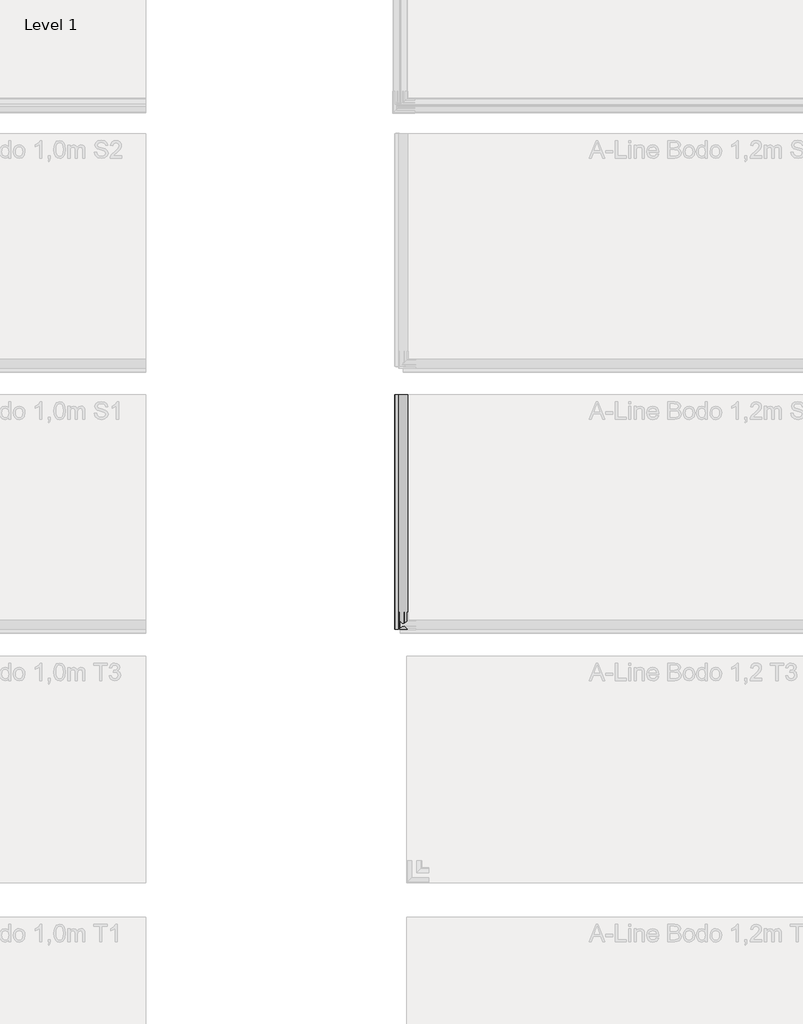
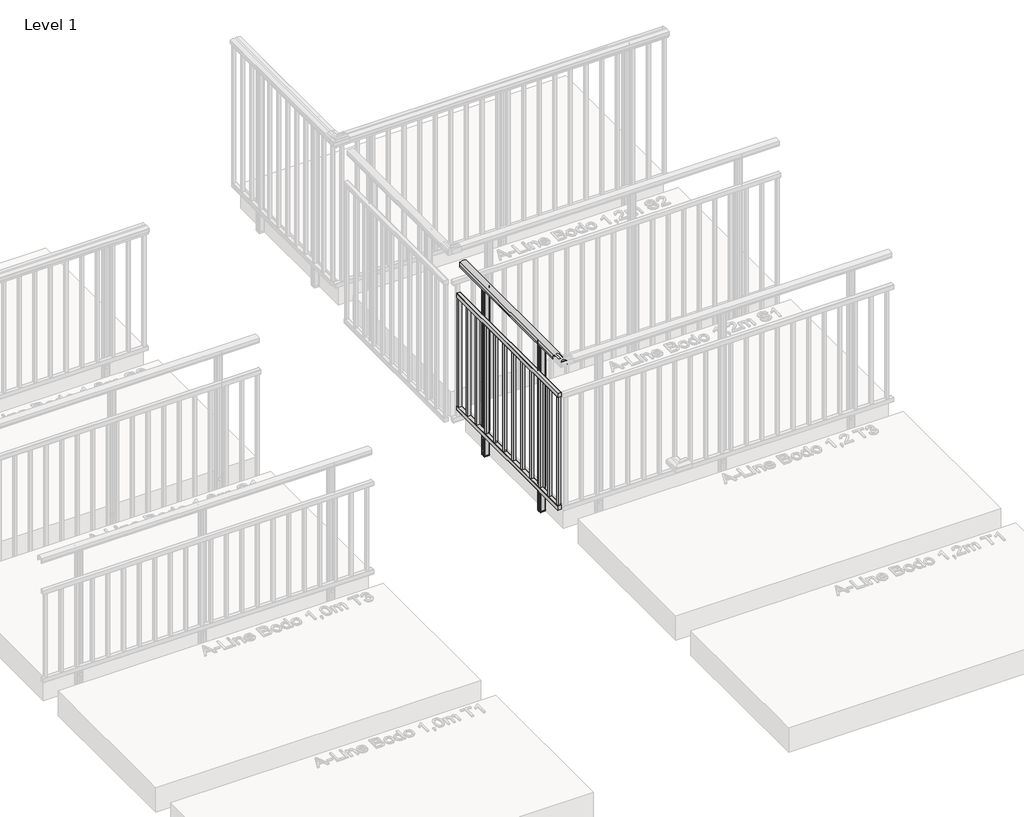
# One storey, part 6 of 66: 1 railing.
"""IFC4 building model written with IfcOpenShell, lengths in millimetres."""

from ifc_helpers import new_model, si_unit, point, frame, frame_2d, origin, place, context, project, spatial, polyline, circle_curve, trimmed, segment, composite_curve, outline, extrude, element, save

model = new_model("IFC4")

# Units and contexts
model_context = context("Model", 3, world=origin())
ifc_project = project(units=[si_unit("LENGTHUNIT", "METRE", prefix="MILLI")], contexts=[model_context])

# Site, building, storey
site = spatial("IfcSite", under=ifc_project)
building = spatial("IfcBuilding", under=site)
storey = spatial("IfcBuildingStorey", under=building, Name="Level 1", Elevation=0.0)

# Railing
placement = place(None, origin())
element("IfcRailing", 1, ObjectType="A-Line Bodo 1,2m S1", at=placement, inside=storey, context=model_context, shape_type="SweptSolid", body=[
    extrude(outline(composite_curve([segment(trimmed(circle_curve(frame_2d((1142.6785502, 8483.339356)), 57.3235687), [point((1194.1390059, 8508.5943162))], [point((1194.1342258, 8458.074658))], False, "CARTESIAN"), True, "CONTINUOUS"), segment(polyline([(1194.1342258, 8458.074658), (1167.0235023, 8458.074658), (1166.4415706, 8458.6565897), (1165.8194895, 8458.0345086), (1157.2498847, 8458.0345086), (1157.2498847, 8459.8394615), (1180.4998829, 8459.8394615), (1180.4998829, 8506.8345077), (1157.2498847, 8506.8345077), (1157.2498847, 8508.5943162), (1165.9694895, 8508.5943162), (1166.5842725, 8507.9795332), (1167.1990555, 8508.5943162), (1194.1390059, 8508.5943162)]), True, "CONTINUOUS")], self_intersect=False)), frame((0.0, -17614.7113559, 0.0), z_axis=(0.0, 1.0, 0.0), x_axis=(0.0, 0.0, 1.0)), (0.0, 0.0, 1.0), 1345.0),
    extrude(outline(composite_curve([segment(polyline([(949.0, 8434.5047322), (916.8, 8434.5047322)]), True, "CONTINUOUS"), segment(trimmed(circle_curve(frame_2d((916.8, 8435.5047322)), 1.0), [point((916.8, 8434.5047322))], [point((915.8, 8435.5047322))], False, "CARTESIAN"), True, "CONTINUOUS"), segment(polyline([(915.8, 8435.5047322), (915.8, 8462.6047322)]), True, "CONTINUOUS"), segment(trimmed(circle_curve(frame_2d((916.8, 8462.6047322)), 1.0), [point((915.8, 8462.6047322))], [point((916.8, 8463.6047322))], False, "CARTESIAN"), True, "CONTINUOUS"), segment(polyline([(916.8, 8463.6047322), (949.0, 8463.6047322)]), True, "CONTINUOUS"), segment(trimmed(circle_curve(frame_2d((949.0, 8462.6047322)), 1.0), [point((949.0, 8463.6047322))], [point((950.0, 8462.6047322))], False, "CARTESIAN"), True, "CONTINUOUS"), segment(polyline([(950.0, 8462.6047322), (950.0, 8435.5047322)]), True, "CONTINUOUS"), segment(trimmed(circle_curve(frame_2d((949.0, 8435.5047322)), 1.0), [point((950.0, 8435.5047322))], [point((949.0, 8434.5047322))], False, "CARTESIAN"), True, "CONTINUOUS")], self_intersect=False)), frame((0.0, -17614.7113559, 0.0), z_axis=(0.0, 1.0, 0.0), x_axis=(0.0, 0.0, 1.0)), (0.0, 0.0, 1.0), 1345.0),
    extrude(outline(composite_curve([segment(trimmed(circle_curve(frame_2d((33.2, 8435.5047322)), 1.0), [point((34.2, 8435.5047322))], [point((33.2, 8434.5047322))], False, "CARTESIAN"), True, "CONTINUOUS"), segment(polyline([(33.2, 8434.5047322), (1.0, 8434.5047322)]), True, "CONTINUOUS"), segment(trimmed(circle_curve(frame_2d((1.0, 8435.5047322)), 1.0), [point((1.0, 8434.5047322))], [point((0.0, 8435.5047322))], False, "CARTESIAN"), True, "CONTINUOUS"), segment(polyline([(0.0, 8435.5047322), (0.0, 8462.6047322)]), True, "CONTINUOUS"), segment(trimmed(circle_curve(frame_2d((1.0, 8462.6047322)), 1.0), [point((0.0, 8462.6047322))], [point((1.0, 8463.6047322))], False, "CARTESIAN"), True, "CONTINUOUS"), segment(polyline([(1.0, 8463.6047322), (33.2, 8463.6047322)]), True, "CONTINUOUS"), segment(trimmed(circle_curve(frame_2d((33.2, 8462.6047322)), 1.0), [point((33.2, 8463.6047322))], [point((34.2, 8462.6047322))], False, "CARTESIAN"), True, "CONTINUOUS"), segment(polyline([(34.2, 8462.6047322), (34.2, 8435.5047322)]), True, "CONTINUOUS")], self_intersect=False)), frame((0.0, -17614.7113559, 0.0), z_axis=(0.0, 1.0, 0.0), x_axis=(0.0, 0.0, 1.0)), (0.0, 0.0, 1.0), 1345.0),
    extrude(outline(polyline([(8439.0547322, -17592.2113559), (8459.0547322, -17592.2113559), (8459.0547322, -17612.2113559), (8439.0547322, -17612.2113559), (8439.0547322, -17592.2113559)]), holes=[polyline([(8441.0547322, -17594.2113559), (8441.0547322, -17610.2113559), (8457.0547322, -17610.2113559), (8457.0547322, -17594.2113559), (8441.0547322, -17594.2113559)])]), frame((0.0, 0.0, 34.0), z_axis=(0.0, 0.0, 1.0), x_axis=(1.0, 0.0, 0.0)), (0.0, 0.0, 1.0), 882.0),
    extrude(outline(polyline([(8439.0547322, -17472.2113559), (8459.0547322, -17472.2113559), (8459.0547322, -17492.2113559), (8439.0547322, -17492.2113559), (8439.0547322, -17472.2113559)]), holes=[polyline([(8441.0547322, -17474.2113559), (8441.0547322, -17490.2113559), (8457.0547322, -17490.2113559), (8457.0547322, -17474.2113559), (8441.0547322, -17474.2113559)])]), frame((0.0, 0.0, 34.0), z_axis=(0.0, 0.0, 1.0), x_axis=(1.0, 0.0, 0.0)), (0.0, 0.0, 1.0), 882.0),
    extrude(outline(polyline([(8439.0547322, -17352.2113559), (8459.0547322, -17352.2113559), (8459.0547322, -17372.2113559), (8439.0547322, -17372.2113559), (8439.0547322, -17352.2113559)]), holes=[polyline([(8441.0547322, -17354.2113559), (8441.0547322, -17370.2113559), (8457.0547322, -17370.2113559), (8457.0547322, -17354.2113559), (8441.0547322, -17354.2113559)])]), frame((0.0, 0.0, 34.0), z_axis=(0.0, 0.0, 1.0), x_axis=(1.0, 0.0, 0.0)), (0.0, 0.0, 1.0), 882.0),
    extrude(outline(polyline([(8439.0547322, -17232.2113559), (8459.0547322, -17232.2113559), (8459.0547322, -17252.2113559), (8439.0547322, -17252.2113559), (8439.0547322, -17232.2113559)]), holes=[polyline([(8441.0547322, -17234.2113559), (8441.0547322, -17250.2113559), (8457.0547322, -17250.2113559), (8457.0547322, -17234.2113559), (8441.0547322, -17234.2113559)])]), frame((0.0, 0.0, 34.0), z_axis=(0.0, 0.0, 1.0), x_axis=(1.0, 0.0, 0.0)), (0.0, 0.0, 1.0), 882.0),
    extrude(outline(polyline([(8439.0547322, -17112.2113559), (8459.0547322, -17112.2113559), (8459.0547322, -17132.2113559), (8439.0547322, -17132.2113559), (8439.0547322, -17112.2113559)]), holes=[polyline([(8441.0547322, -17114.2113559), (8441.0547322, -17130.2113559), (8457.0547322, -17130.2113559), (8457.0547322, -17114.2113559), (8441.0547322, -17114.2113559)])]), frame((0.0, 0.0, 34.0), z_axis=(0.0, 0.0, 1.0), x_axis=(1.0, 0.0, 0.0)), (0.0, 0.0, 1.0), 882.0),
    extrude(outline(polyline([(8439.0547322, -16992.2113559), (8459.0547322, -16992.2113559), (8459.0547322, -17012.2113559), (8439.0547322, -17012.2113559), (8439.0547322, -16992.2113559)]), holes=[polyline([(8441.0547322, -16994.2113559), (8441.0547322, -17010.2113559), (8457.0547322, -17010.2113559), (8457.0547322, -16994.2113559), (8441.0547322, -16994.2113559)])]), frame((0.0, 0.0, 34.0), z_axis=(0.0, 0.0, 1.0), x_axis=(1.0, 0.0, 0.0)), (0.0, 0.0, 1.0), 882.0),
    extrude(outline(polyline([(8439.0547322, -16872.2113559), (8459.0547322, -16872.2113559), (8459.0547322, -16892.2113559), (8439.0547322, -16892.2113559), (8439.0547322, -16872.2113559)]), holes=[polyline([(8441.0547322, -16874.2113559), (8441.0547322, -16890.2113559), (8457.0547322, -16890.2113559), (8457.0547322, -16874.2113559), (8441.0547322, -16874.2113559)])]), frame((0.0, 0.0, 34.0), z_axis=(0.0, 0.0, 1.0), x_axis=(1.0, 0.0, 0.0)), (0.0, 0.0, 1.0), 882.0),
    extrude(outline(polyline([(8439.0547322, -16752.2113559), (8459.0547322, -16752.2113559), (8459.0547322, -16772.2113559), (8439.0547322, -16772.2113559), (8439.0547322, -16752.2113559)]), holes=[polyline([(8441.0547322, -16754.2113559), (8441.0547322, -16770.2113559), (8457.0547322, -16770.2113559), (8457.0547322, -16754.2113559), (8441.0547322, -16754.2113559)])]), frame((0.0, 0.0, 34.0), z_axis=(0.0, 0.0, 1.0), x_axis=(1.0, 0.0, 0.0)), (0.0, 0.0, 1.0), 882.0),
    extrude(outline(polyline([(8439.0547322, -16632.2113559), (8459.0547322, -16632.2113559), (8459.0547322, -16652.2113559), (8439.0547322, -16652.2113559), (8439.0547322, -16632.2113559)]), holes=[polyline([(8441.0547322, -16634.2113559), (8441.0547322, -16650.2113559), (8457.0547322, -16650.2113559), (8457.0547322, -16634.2113559), (8441.0547322, -16634.2113559)])]), frame((0.0, 0.0, 34.0), z_axis=(0.0, 0.0, 1.0), x_axis=(1.0, 0.0, 0.0)), (0.0, 0.0, 1.0), 882.0),
    extrude(outline(polyline([(8439.0547322, -16512.2113559), (8459.0547322, -16512.2113559), (8459.0547322, -16532.2113559), (8439.0547322, -16532.2113559), (8439.0547322, -16512.2113559)]), holes=[polyline([(8441.0547322, -16514.2113559), (8441.0547322, -16530.2113559), (8457.0547322, -16530.2113559), (8457.0547322, -16514.2113559), (8441.0547322, -16514.2113559)])]), frame((0.0, 0.0, 34.0), z_axis=(0.0, 0.0, 1.0), x_axis=(1.0, 0.0, 0.0)), (0.0, 0.0, 1.0), 882.0),
    extrude(outline(polyline([(8439.0547322, -16392.2113559), (8459.0547322, -16392.2113559), (8459.0547322, -16412.2113559), (8439.0547322, -16412.2113559), (8439.0547322, -16392.2113559)]), holes=[polyline([(8441.0547322, -16394.2113559), (8441.0547322, -16410.2113559), (8457.0547322, -16410.2113559), (8457.0547322, -16394.2113559), (8441.0547322, -16394.2113559)])]), frame((0.0, 0.0, 34.0), z_axis=(0.0, 0.0, 1.0), x_axis=(1.0, 0.0, 0.0)), (0.0, 0.0, 1.0), 882.0),
    extrude(outline(polyline([(8439.0547322, -16272.2113559), (8459.0547322, -16272.2113559), (8459.0547322, -16292.2113559), (8439.0547322, -16292.2113559), (8439.0547322, -16272.2113559)]), holes=[polyline([(8441.0547322, -16274.2113559), (8441.0547322, -16290.2113559), (8457.0547322, -16290.2113559), (8457.0547322, -16274.2113559), (8441.0547322, -16274.2113559)])]), frame((0.0, 0.0, 34.0), z_axis=(0.0, 0.0, 1.0), x_axis=(1.0, 0.0, 0.0)), (0.0, 0.0, 1.0), 882.0),
    extrude(outline(composite_curve([segment(polyline([(8504.0547322, -17315.5141429), (8504.0547322, -17332.5374429)]), True, "CONTINUOUS"), segment(trimmed(circle_curve(frame_2d((8501.8808192, -17332.5374429)), 2.173913), [point((8504.0547322, -17332.5374429))], [point((8501.8808192, -17334.7113559))], False, "CARTESIAN"), True, "CONTINUOUS"), segment(polyline([(8501.8808192, -17334.7113559), (8466.2286453, -17334.7113559)]), True, "CONTINUOUS"), segment(trimmed(circle_curve(frame_2d((8466.2286453, -17332.5374429)), 2.173913), [point((8466.2286453, -17334.7113559))], [point((8464.0547322, -17332.5374429))], False, "CARTESIAN"), True, "CONTINUOUS"), segment(polyline([(8464.0547322, -17332.5374429), (8464.0896821, -17315.479193), (8464.8575193, -17314.7113559), (8464.0896821, -17313.9435188), (8464.0547322, -17296.885269)]), True, "CONTINUOUS"), segment(trimmed(circle_curve(frame_2d((8466.2286453, -17296.885269)), 2.173913), [point((8464.0547322, -17296.885269))], [point((8466.2286453, -17294.7113559))], False, "CARTESIAN"), True, "CONTINUOUS"), segment(polyline([(8466.2286453, -17294.7113559), (8501.8808192, -17294.7113559)]), True, "CONTINUOUS"), segment(trimmed(circle_curve(frame_2d((8501.8808192, -17296.885269)), 2.173913), [point((8501.8808192, -17294.7113559))], [point((8504.0547322, -17296.8852689))], False, "CARTESIAN"), True, "CONTINUOUS"), segment(polyline([(8504.0547322, -17296.8852689), (8504.0197823, -17313.9435188), (8503.2519452, -17314.7113559), (8504.0547322, -17315.5141429)]), True, "CONTINUOUS")], self_intersect=False)), frame((0.0, 0.0, -200.0), z_axis=(0.0, 0.0, 1.0), x_axis=(1.0, 0.0, 0.0)), (0.0, 0.0, 1.0), 10.0),
    extrude(outline(composite_curve([segment(trimmed(circle_curve(frame_2d((0.0, 12.0000001)), 12.0), [point((0.0, 24.0))], [point((0.0, 0.0))], False, "CARTESIAN"), True, "CONTINUOUS"), segment(trimmed(circle_curve(frame_2d((0.0, 12.0000001)), 12.0), [point((0.0, 0.0))], [point((0.0, 24.0))], False, "CARTESIAN"), True, "CONTINUOUS")], self_intersect=False)), frame((8464.0666505, -17302.7023183, -151.0), z_axis=(-0.9999999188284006, 0.000402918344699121, 0.0), x_axis=(0.0, 0.0, -1.0)), (0.0, 0.0, 1.0), 3.0757477),
    extrude(outline(composite_curve([segment(trimmed(circle_curve(frame_2d((0.0, 12.0000001)), 12.0), [point((0.0, 24.0))], [point((0.0, 0.0))], False, "CARTESIAN"), True, "CONTINUOUS"), segment(trimmed(circle_curve(frame_2d((0.0, 12.0000001)), 12.0), [point((0.0, 0.0))], [point((0.0, 24.0))], False, "CARTESIAN"), True, "CONTINUOUS")], self_intersect=False)), frame((8464.0666505, -17302.7023183, -50.0), z_axis=(-0.9999999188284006, 0.000402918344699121, 0.0), x_axis=(0.0, 0.0, -1.0)), (0.0, 0.0, 1.0), 3.0757477),
    extrude(outline(composite_curve([segment(trimmed(circle_curve(frame_2d((8501.8808192, -17296.885269)), 2.173913), [point((8501.8808192, -17294.7113559))], [point((8504.0547322, -17296.885269))], False, "CARTESIAN"), True, "CONTINUOUS"), segment(polyline([(8504.0547322, -17296.885269), (8504.0197823, -17313.9435188), (8503.6517779, -17314.8417907), (8504.0547322, -17315.6096278), (8504.0547322, -17332.5374429)]), True, "CONTINUOUS"), segment(trimmed(circle_curve(frame_2d((8501.8808192, -17332.5374429)), 2.173913), [point((8504.0547322, -17332.5374429))], [point((8501.8808192, -17334.7113559))], False, "CARTESIAN"), True, "CONTINUOUS"), segment(polyline([(8501.8808192, -17334.7113559), (8466.2286453, -17334.7113559)]), True, "CONTINUOUS"), segment(trimmed(circle_curve(frame_2d((8466.2286453, -17332.5374429)), 2.173913), [point((8466.2286453, -17334.7113559))], [point((8464.0547322, -17332.5374429))], False, "CARTESIAN"), True, "CONTINUOUS"), segment(polyline([(8464.0547322, -17332.5374429), (8464.0896821, -17315.479193), (8464.8575193, -17314.7113559), (8464.0896821, -17313.9435188), (8464.0547322, -17296.885269)]), True, "CONTINUOUS"), segment(trimmed(circle_curve(frame_2d((8466.2286453, -17296.885269)), 2.173913), [point((8464.0547322, -17296.885269))], [point((8466.2286453, -17294.7113559))], False, "CARTESIAN"), True, "CONTINUOUS"), segment(polyline([(8466.2286453, -17294.7113559), (8501.8808192, -17294.7113559)]), True, "CONTINUOUS")], self_intersect=False), holes=[composite_curve([segment(polyline([(8499.7069062, -17298.1896168), (8468.4025583, -17298.1896168)]), True, "CONTINUOUS"), segment(trimmed(circle_curve(frame_2d((8468.4025583, -17299.059182)), 0.8695652), [point((8468.4025583, -17298.1896168))], [point((8467.5329931, -17299.059182))], True, "CARTESIAN"), True, "CONTINUOUS"), segment(polyline([(8467.5329931, -17299.059182), (8467.5329931, -17330.3635298)]), True, "CONTINUOUS"), segment(trimmed(circle_curve(frame_2d((8468.4025583, -17330.3635298)), 0.8695652), [point((8467.5329931, -17330.3635298))], [point((8468.4025583, -17331.233095))], True, "CARTESIAN"), True, "CONTINUOUS"), segment(polyline([(8468.4025583, -17331.233095), (8499.7069062, -17331.233095)]), True, "CONTINUOUS"), segment(trimmed(circle_curve(frame_2d((8499.7069062, -17330.3635298)), 0.8695652), [point((8499.7069062, -17331.233095))], [point((8500.5764714, -17330.3635298))], True, "CARTESIAN"), True, "CONTINUOUS"), segment(polyline([(8500.5764714, -17330.3635298), (8500.5764714, -17299.059182)]), True, "CONTINUOUS"), segment(trimmed(circle_curve(frame_2d((8499.7069062, -17299.059182)), 0.8695652), [point((8500.5764714, -17299.059182))], [point((8499.7069062, -17298.1896168))], True, "CARTESIAN"), True, "CONTINUOUS")], self_intersect=False)]), frame((0.0, 0.0, -190.0), z_axis=(0.0, 0.0, 1.0), x_axis=(1.0, 0.0, 0.0)), (0.0, 0.0, 1.0), 1371.0),
    extrude(outline(composite_curve([segment(polyline([(8504.0547322, -16570.5141429), (8504.0547322, -16587.5374429)]), True, "CONTINUOUS"), segment(trimmed(circle_curve(frame_2d((8501.8808192, -16587.5374429)), 2.173913), [point((8504.0547322, -16587.5374429))], [point((8501.8808192, -16589.7113559))], False, "CARTESIAN"), True, "CONTINUOUS"), segment(polyline([(8501.8808192, -16589.7113559), (8466.2286453, -16589.7113559)]), True, "CONTINUOUS"), segment(trimmed(circle_curve(frame_2d((8466.2286453, -16587.5374429)), 2.173913), [point((8466.2286453, -16589.7113559))], [point((8464.0547322, -16587.5374429))], False, "CARTESIAN"), True, "CONTINUOUS"), segment(polyline([(8464.0547322, -16587.5374429), (8464.0896821, -16570.479193), (8464.8575193, -16569.7113559), (8464.0896821, -16568.9435188), (8464.0547322, -16551.885269)]), True, "CONTINUOUS"), segment(trimmed(circle_curve(frame_2d((8466.2286453, -16551.885269)), 2.173913), [point((8464.0547322, -16551.885269))], [point((8466.2286453, -16549.7113559))], False, "CARTESIAN"), True, "CONTINUOUS"), segment(polyline([(8466.2286453, -16549.7113559), (8501.8808192, -16549.7113559)]), True, "CONTINUOUS"), segment(trimmed(circle_curve(frame_2d((8501.8808192, -16551.885269)), 2.173913), [point((8501.8808192, -16549.7113559))], [point((8504.0547322, -16551.8852689))], False, "CARTESIAN"), True, "CONTINUOUS"), segment(polyline([(8504.0547322, -16551.8852689), (8504.0197823, -16568.9435188), (8503.2519452, -16569.7113559), (8504.0547322, -16570.5141429)]), True, "CONTINUOUS")], self_intersect=False)), frame((0.0, 0.0, -200.0), z_axis=(0.0, 0.0, 1.0), x_axis=(1.0, 0.0, 0.0)), (0.0, 0.0, 1.0), 10.0),
    extrude(outline(composite_curve([segment(trimmed(circle_curve(frame_2d((0.0, 12.0000001)), 12.0), [point((0.0, 24.0))], [point((0.0, 0.0))], False, "CARTESIAN"), True, "CONTINUOUS"), segment(trimmed(circle_curve(frame_2d((0.0, 12.0000001)), 12.0), [point((0.0, 0.0))], [point((0.0, 24.0))], False, "CARTESIAN"), True, "CONTINUOUS")], self_intersect=False)), frame((8464.0666505, -16557.7023183, -151.0), z_axis=(-0.9999999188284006, 0.000402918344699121, 0.0), x_axis=(0.0, 0.0, -1.0)), (0.0, 0.0, 1.0), 3.0757477),
    extrude(outline(composite_curve([segment(trimmed(circle_curve(frame_2d((0.0, 12.0000001)), 12.0), [point((0.0, 24.0))], [point((0.0, 0.0))], False, "CARTESIAN"), True, "CONTINUOUS"), segment(trimmed(circle_curve(frame_2d((0.0, 12.0000001)), 12.0), [point((0.0, 0.0))], [point((0.0, 24.0))], False, "CARTESIAN"), True, "CONTINUOUS")], self_intersect=False)), frame((8464.0666505, -16557.7023183, -50.0), z_axis=(-0.9999999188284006, 0.000402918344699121, 0.0), x_axis=(0.0, 0.0, -1.0)), (0.0, 0.0, 1.0), 3.0757477),
    extrude(outline(composite_curve([segment(trimmed(circle_curve(frame_2d((8501.8808192, -16551.885269)), 2.173913), [point((8501.8808192, -16549.7113559))], [point((8504.0547322, -16551.885269))], False, "CARTESIAN"), True, "CONTINUOUS"), segment(polyline([(8504.0547322, -16551.885269), (8504.0197823, -16568.9435188), (8503.6517779, -16569.8417907), (8504.0547322, -16570.6096278), (8504.0547322, -16587.5374429)]), True, "CONTINUOUS"), segment(trimmed(circle_curve(frame_2d((8501.8808192, -16587.5374429)), 2.173913), [point((8504.0547322, -16587.5374429))], [point((8501.8808192, -16589.7113559))], False, "CARTESIAN"), True, "CONTINUOUS"), segment(polyline([(8501.8808192, -16589.7113559), (8466.2286453, -16589.7113559)]), True, "CONTINUOUS"), segment(trimmed(circle_curve(frame_2d((8466.2286453, -16587.5374429)), 2.173913), [point((8466.2286453, -16589.7113559))], [point((8464.0547322, -16587.5374429))], False, "CARTESIAN"), True, "CONTINUOUS"), segment(polyline([(8464.0547322, -16587.5374429), (8464.0896821, -16570.479193), (8464.8575193, -16569.7113559), (8464.0896821, -16568.9435188), (8464.0547322, -16551.885269)]), True, "CONTINUOUS"), segment(trimmed(circle_curve(frame_2d((8466.2286453, -16551.885269)), 2.173913), [point((8464.0547322, -16551.885269))], [point((8466.2286453, -16549.7113559))], False, "CARTESIAN"), True, "CONTINUOUS"), segment(polyline([(8466.2286453, -16549.7113559), (8501.8808192, -16549.7113559)]), True, "CONTINUOUS")], self_intersect=False), holes=[composite_curve([segment(polyline([(8499.7069062, -16553.1896168), (8468.4025583, -16553.1896168)]), True, "CONTINUOUS"), segment(trimmed(circle_curve(frame_2d((8468.4025583, -16554.059182)), 0.8695652), [point((8468.4025583, -16553.1896168))], [point((8467.5329931, -16554.059182))], True, "CARTESIAN"), True, "CONTINUOUS"), segment(polyline([(8467.5329931, -16554.059182), (8467.5329931, -16585.3635298)]), True, "CONTINUOUS"), segment(trimmed(circle_curve(frame_2d((8468.4025583, -16585.3635298)), 0.8695652), [point((8467.5329931, -16585.3635298))], [point((8468.4025583, -16586.233095))], True, "CARTESIAN"), True, "CONTINUOUS"), segment(polyline([(8468.4025583, -16586.233095), (8499.7069062, -16586.233095)]), True, "CONTINUOUS"), segment(trimmed(circle_curve(frame_2d((8499.7069062, -16585.3635298)), 0.8695652), [point((8499.7069062, -16586.233095))], [point((8500.5764714, -16585.3635298))], True, "CARTESIAN"), True, "CONTINUOUS"), segment(polyline([(8500.5764714, -16585.3635298), (8500.5764714, -16554.059182)]), True, "CONTINUOUS"), segment(trimmed(circle_curve(frame_2d((8499.7069062, -16554.059182)), 0.8695652), [point((8500.5764714, -16554.059182))], [point((8499.7069062, -16553.1896168))], True, "CARTESIAN"), True, "CONTINUOUS")], self_intersect=False)]), frame((0.0, 0.0, -190.0), z_axis=(0.0, 0.0, 1.0), x_axis=(1.0, 0.0, 0.0)), (0.0, 0.0, 1.0), 1371.0),
])

save(model, "model.ifc")
